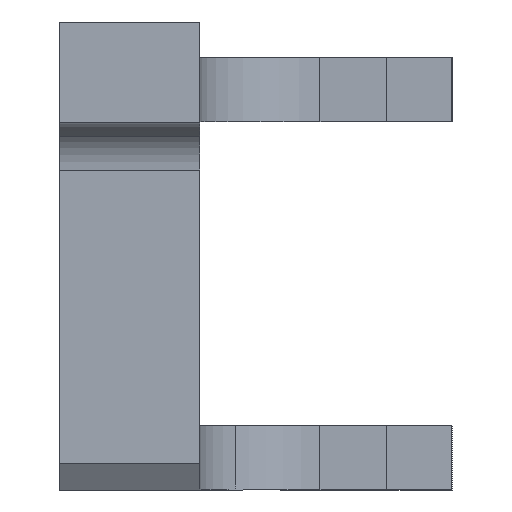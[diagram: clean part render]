
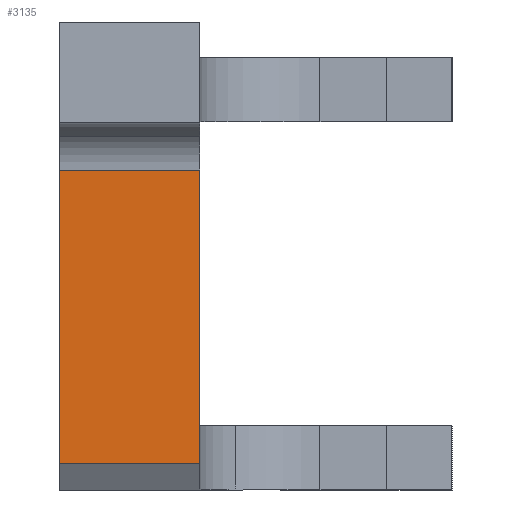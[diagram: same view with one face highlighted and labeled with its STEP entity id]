
A CAD part, left-side view. The second image highlights one B-rep face of the part: STEP entity #3135.
In plain terms, the highlighted free-form (B-spline) face has degree [1, 1] with [2, 2] control points.
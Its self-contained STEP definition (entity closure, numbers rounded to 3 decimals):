
#285=CARTESIAN_POINT('',(-57.155,3.326,-28.));
#286=VERTEX_POINT('',#285);
#294=CARTESIAN_POINT('',(-57.155,-31.674,-28.));
#295=VERTEX_POINT('',#294);
#296=CARTESIAN_POINT('',(-57.155,-31.674,-28.));
#297=DIRECTION('',(0.0,1.0,0.0));
#298=VECTOR('',#297,35.);
#299=LINE('',#296,#298);
#300=EDGE_CURVE('',#295,#286,#299,.T.);
#3022=CARTESIAN_POINT('',(-57.155,3.326,-101.301));
#3023=VERTEX_POINT('',#3022);
#3024=CARTESIAN_POINT('',(-57.155,3.326,-28.));
#3025=DIRECTION('',(0.0,0.0,-1.0));
#3026=VECTOR('',#3025,73.301);
#3027=LINE('',#3024,#3026);
#3028=EDGE_CURVE('',#286,#3023,#3027,.T.);
#3112=CARTESIAN_POINT('',(-57.155,3.326,-101.301));
#3113=CARTESIAN_POINT('',(-57.155,3.326,-28.));
#3114=CARTESIAN_POINT('',(-57.155,-31.674,-101.301));
#3115=CARTESIAN_POINT('',(-57.155,-31.674,-28.));
#3116=B_SPLINE_SURFACE_WITH_KNOTS('',1,1,((#3112,#3114),(#3113,#3115)),.UNSPECIFIED.,.F.,.F.,.U.,(2,2),(2,2),(0.0,73.301),(0.0,35.),.UNSPECIFIED.);
#3117=CARTESIAN_POINT('',(-57.155,-31.674,-101.301));
#3118=VERTEX_POINT('',#3117);
#3119=CARTESIAN_POINT('',(-57.155,-31.674,-101.301));
#3120=DIRECTION('',(0.0,0.0,1.0));
#3121=VECTOR('',#3120,73.301);
#3122=LINE('',#3119,#3121);
#3123=EDGE_CURVE('',#3118,#295,#3122,.T.);
#3124=ORIENTED_EDGE('',*,*,#3123,.T.);
#3125=ORIENTED_EDGE('',*,*,#300,.T.);
#3126=ORIENTED_EDGE('',*,*,#3028,.T.);
#3127=CARTESIAN_POINT('',(-57.155,-31.674,-101.301));
#3128=DIRECTION('',(0.0,1.0,0.0));
#3129=VECTOR('',#3128,35.);
#3130=LINE('',#3127,#3129);
#3131=EDGE_CURVE('',#3118,#3023,#3130,.T.);
#3132=ORIENTED_EDGE('',*,*,#3131,.F.);
#3133=EDGE_LOOP('',(#3124,#3125,#3126,#3132));
#3134=FACE_OUTER_BOUND('',#3133,.T.);
#3135=ADVANCED_FACE('',(#3134),#3116,.F.);
